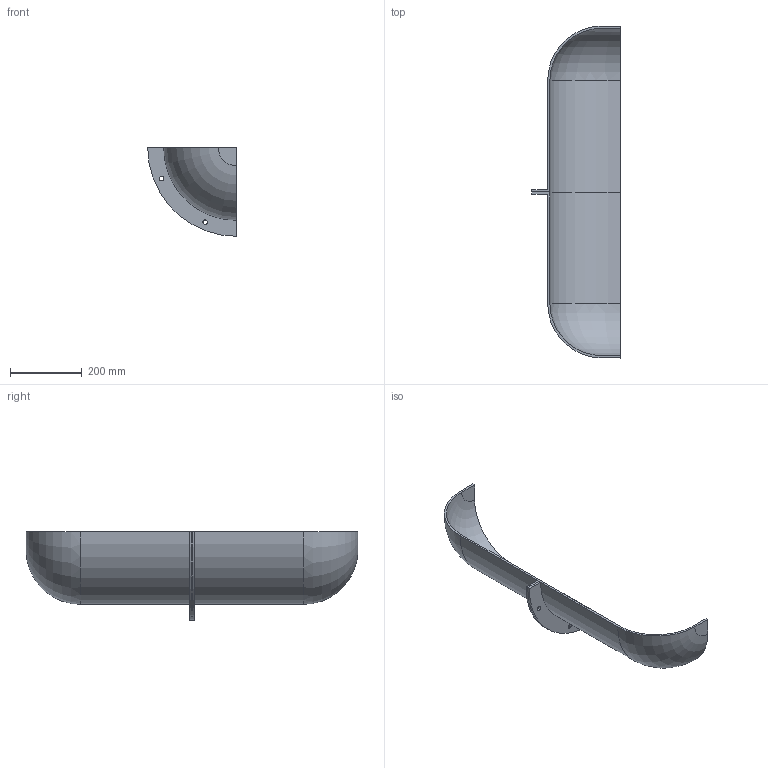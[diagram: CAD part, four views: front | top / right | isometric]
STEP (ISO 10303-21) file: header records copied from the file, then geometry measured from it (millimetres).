
FILE_DESCRIPTION (( 'STEP AP203' ), '1' );
FILE_NAME ('Flange.STEP', '2007-03-13T12:30:54', ( 'ALGOR' ), ( 'ALGOR Inc.' ), 'SwSTEP 2.0', 'SolidWorks 2007', '' );
FILE_SCHEMA (( 'CONFIG_CONTROL_DESIGN' ));
Length unit declared in the file: inch
Products named in the file (3): Flange; part1
Assembly tree (2 placements, depth 2):
  Flange
    part1
    part1
Bounding box: 247.34 x 927.1 x 247.34 mm (x, y, z)
Volume: 2141571.5 mm3; surface area: 696784.2 mm2
Topology: 2 solids, 2 shells, 30 faces, 78 edges, 52 vertices
Faces by surface type: cylinder 14, plane 12, torus 4
Entity records: 1269 total; most frequent: DIRECTION 188, CARTESIAN_POINT 165, ORIENTED_EDGE 156, EDGE_CURVE 78, AXIS2_PLACEMENT_3D 75, VERTEX_POINT 52, CIRCLE 40, VECTOR 38
